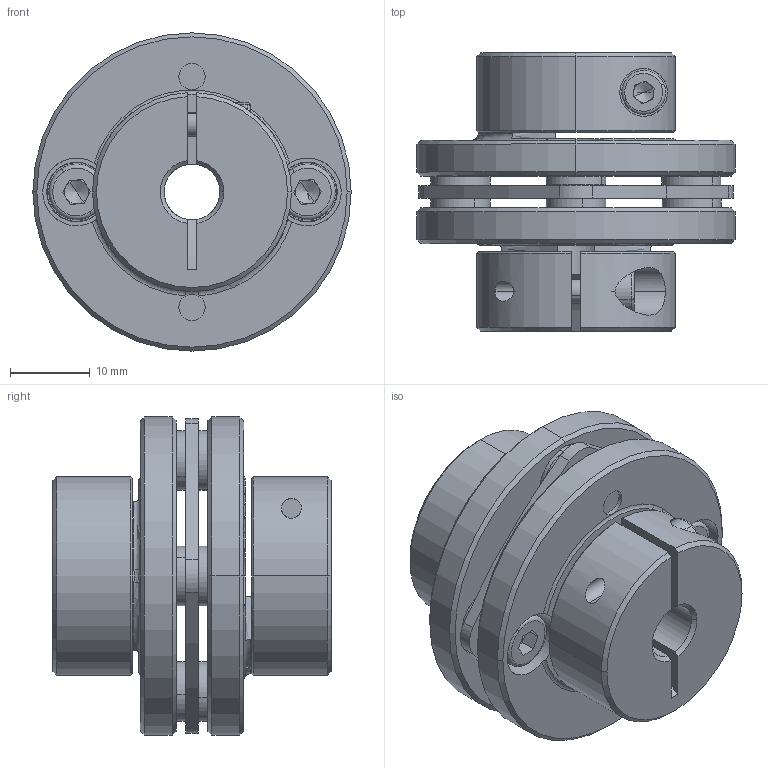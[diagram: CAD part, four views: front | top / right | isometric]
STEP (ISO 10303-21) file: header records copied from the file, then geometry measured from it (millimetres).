
FILE_DESCRIPTION (( 'STEP AP203' ), '1' );
FILE_NAME ('LE1-B-D40L35-7-7.STEP', '2021-11-01T02:07:00', ( '' ), ( '' ), 'SwSTEP 2.0', 'SolidWorks 2018', '' );
FILE_SCHEMA (( 'CONFIG_CONTROL_DESIGN' ));
Length unit declared in the file: millimetre
Products named in the file (1): LE1-B-D40L35-7-7
Bounding box: 40 x 35 x 40 mm (x, y, z)
Volume: 20756.6 mm3; surface area: 12817.6 mm2
Topology: 1 solids, 13 shells, 423 faces, 1021 edges, 630 vertices
Faces by surface type: cylinder 149, plane 140, cone 114, torus 18, bspline 2
Entity records: 12770 total; most frequent: CARTESIAN_POINT 2463, DIRECTION 2335, ORIENTED_EDGE 2018, EDGE_CURVE 1009, AXIS2_PLACEMENT_3D 952, VERTEX_POINT 630, CIRCLE 530, EDGE_LOOP 491
